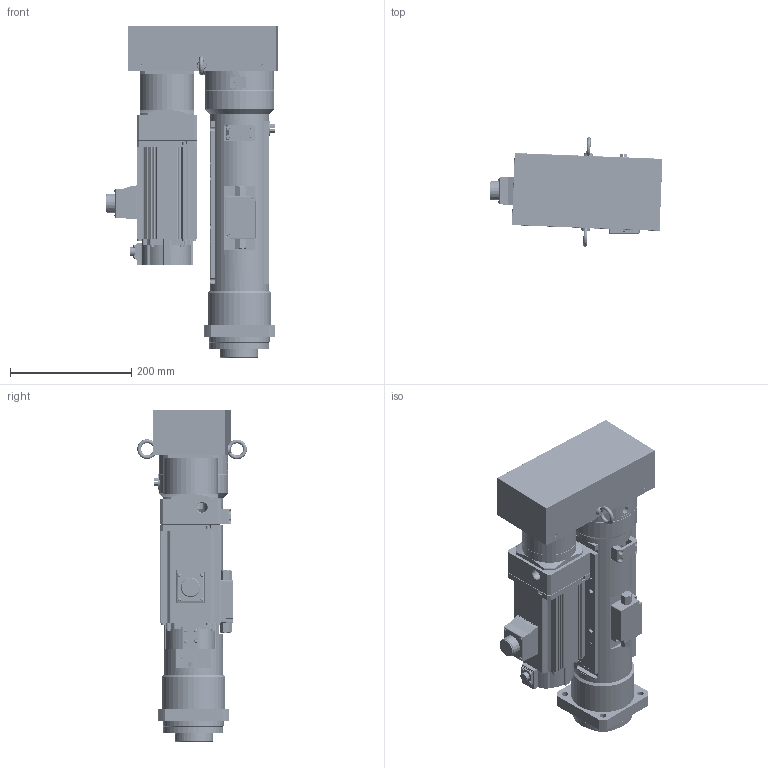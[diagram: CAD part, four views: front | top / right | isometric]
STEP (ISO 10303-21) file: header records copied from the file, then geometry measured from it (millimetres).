
FILE_DESCRIPTION( ('This file contains a STEP AP42 implementation' ,'as created by ZW3D STEP Interface translator.') ,'2;1' );
FILE_NAME( 'OACIS-DS-P020-200-200-A6V200_20.51.stp' ,'26 416.10 833', (''), ('ZWCAD Software Co.'), 'Version 1.0', 'ZW3D to STEP translator', '' );
FILE_SCHEMA(('AUTOMOTIVE_DESIGN { 1 0 10303 214 1 1 1 1 }'));
Length unit declared in the file: millimetre
Products named in the file (1): 0
Bounding box: 285.18 x 180.78 x 548 mm (x, y, z)
Volume: 6944177.4 mm3; surface area: 1220771.9 mm2
Topology: 48 solids, 52 shells, 2933 faces, 7607 edges, 5005 vertices
Faces by surface type: cylinder 1366, plane 1129, cone 322, torus 90, sphere 16, bspline 10
Full cylindrical faces by diameter (mm): 1.6 x8, 2.459 x5, 2.75 x4, 3.2 x5, 3.242 x10, 3.3 x74, 4 x8, 4.134 x12, 4.2 x4, 4.3 x24, 4.5 x4, 5 x40, 5.5 x4, 6.5 x8, 6.6 x8, 6.647 x5, 6.8 x36, 7 x20, 8 x36, 8.4 x8, 8.5 x25, 9 x4, 11 x12, 12 x1, 14.8 x1, 15 x8, 15.5 x2, 16.5 x2, 18 x5, 18.917 x2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
Entity records: 98233 total; most frequent: CARTESIAN_POINT 19097, DIRECTION 16943, ORIENTED_EDGE 14938, EDGE_CURVE 7497, AXIS2_PLACEMENT_3D 6777, VERTEX_POINT 4935, CIRCLE 3840, EDGE_LOOP 3498
